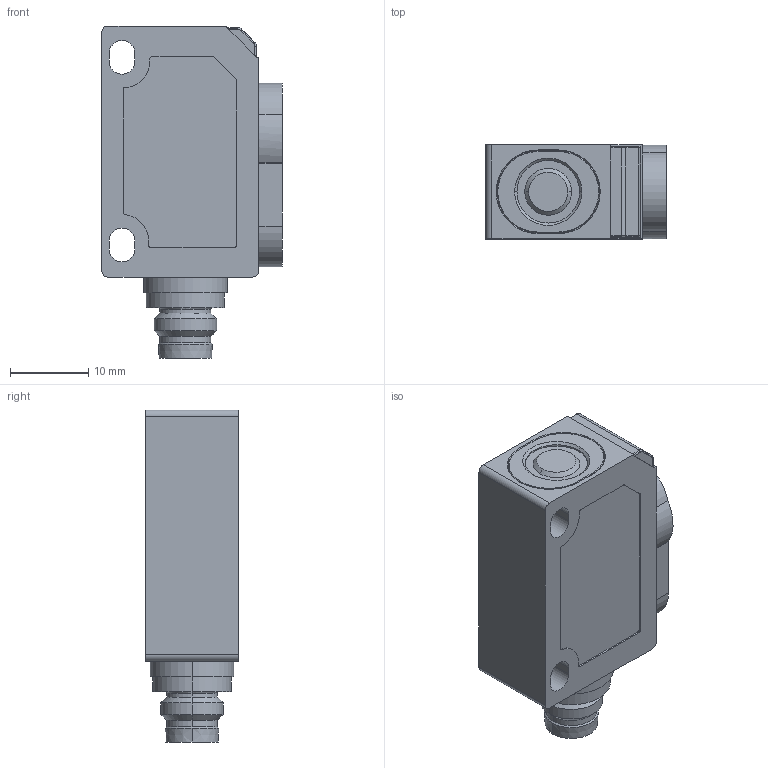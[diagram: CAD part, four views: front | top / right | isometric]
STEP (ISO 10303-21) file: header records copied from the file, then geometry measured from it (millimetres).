
FILE_DESCRIPTION((''),'2;1');
FILE_NAME('C:\Dokumente und Einstellungen\Kramp\Eigene Dateien\Microsonic Nacharbeit 2\STP\zws-24_CX_QS.stp','2005-08-10T11:37:16',('Kramp'),(''),'Autodesk Inventor 7','Autodesk Inventor 7','');
FILE_SCHEMA(('AUTOMOTIVE_DESIGN { 1 0 10303 214 1 1 1 1 }'));
Length unit declared in the file: millimetre
Products named in the file (1): zws-24_CX_QS
Bounding box: 23.1 x 12 x 42.45 mm (x, y, z)
Volume: 8493 mm3; surface area: 3413.7 mm2
Topology: 1 solids, 1 shells, 145 faces, 357 edges, 220 vertices
Faces by surface type: cylinder 71, plane 44, cone 16, sphere 8, torus 4, bspline 2
Entity records: 4326 total; most frequent: DIRECTION 805, CARTESIAN_POINT 795, ORIENTED_EDGE 690, EDGE_CURVE 345, AXIS2_PLACEMENT_3D 316, VERTEX_POINT 216, VECTOR 173, LINE 173
